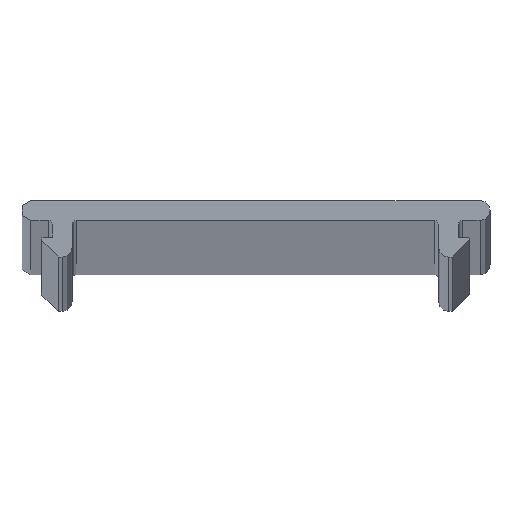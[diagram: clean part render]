
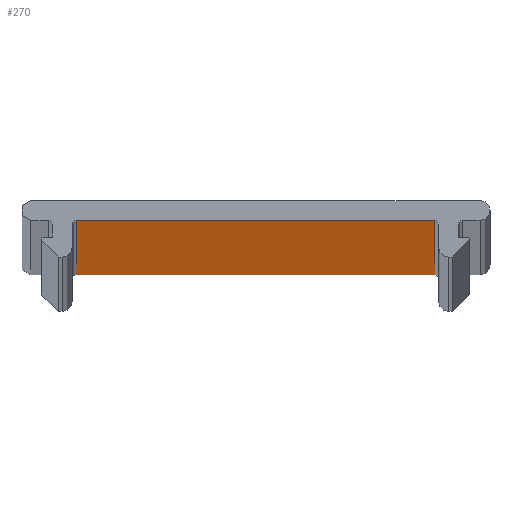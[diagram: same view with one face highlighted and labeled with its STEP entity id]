
A CAD part, top view. The second image highlights one B-rep face of the part: STEP entity #270.
In plain terms, the highlighted planar face has unit normal (0, -1, 0).
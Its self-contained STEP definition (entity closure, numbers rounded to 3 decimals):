
#38 = ORIENTED_EDGE ( 'NONE', *, *, #884, .T. ) ;
#59 = VECTOR ( 'NONE', #769, 1000. ) ;
#121 = DIRECTION ( 'NONE',  ( 0., -1., 0. ) ) ;
#135 = LINE ( 'NONE', #437, #764 ) ;
#153 = CARTESIAN_POINT ( 'NONE',  ( -9.05, 14.5, 787.4 ) ) ;
#166 = VERTEX_POINT ( 'NONE', #955 ) ;
#185 = VECTOR ( 'NONE', #429, 1000. ) ;
#225 = DIRECTION ( 'NONE',  ( 1., 0., 0. ) ) ;
#270 = ADVANCED_FACE ( 'NONE', ( #574 ), #796, .T. ) ;
#273 = VERTEX_POINT ( 'NONE', #562 ) ;
#326 = VECTOR ( 'NONE', #225, 1000. ) ;
#340 = AXIS2_PLACEMENT_3D ( 'NONE', #500, #121, #878 ) ;
#347 = EDGE_CURVE ( 'NONE', #166, #273, #758, .T. ) ;
#365 = VERTEX_POINT ( 'NONE', #973 ) ;
#429 = DIRECTION ( 'NONE',  ( 0., 0., 1. ) ) ;
#437 = CARTESIAN_POINT ( 'NONE',  ( 9.05, 14.5, -787.4 ) ) ;
#439 = CARTESIAN_POINT ( 'NONE',  ( -9.05, 14.5, -177.3 ) ) ;
#500 = CARTESIAN_POINT ( 'NONE',  ( -9.05, 14.5, -177.3 ) ) ;
#515 = DIRECTION ( 'NONE',  ( -1., 0., 0. ) ) ;
#525 = ORIENTED_EDGE ( 'NONE', *, *, #923, .F. ) ;
#529 = CARTESIAN_POINT ( 'NONE',  ( 9.05, 14.5, -177.3 ) ) ;
#562 = CARTESIAN_POINT ( 'NONE',  ( -9.05, 14.5, 787.4 ) ) ;
#567 = ORIENTED_EDGE ( 'NONE', *, *, #750, .F. ) ;
#574 = FACE_OUTER_BOUND ( 'NONE', #740, .T. ) ;
#691 = CARTESIAN_POINT ( 'NONE',  ( 9.05, 14.5, 787.4 ) ) ;
#740 = EDGE_LOOP ( 'NONE', ( #38, #525, #867, #567 ) ) ;
#750 = EDGE_CURVE ( 'NONE', #365, #166, #135, .T. ) ;
#758 = LINE ( 'NONE', #439, #185 ) ;
#764 = VECTOR ( 'NONE', #515, 1000. ) ;
#769 = DIRECTION ( 'NONE',  ( 0., 0., 1. ) ) ;
#796 = PLANE ( 'NONE',  #340 ) ;
#838 = LINE ( 'NONE', #153, #326 ) ;
#867 = ORIENTED_EDGE ( 'NONE', *, *, #347, .F. ) ;
#878 = DIRECTION ( 'NONE',  ( 0., 0., -1. ) ) ;
#884 = EDGE_CURVE ( 'NONE', #365, #945, #974, .T. ) ;
#923 = EDGE_CURVE ( 'NONE', #273, #945, #838, .T. ) ;
#945 = VERTEX_POINT ( 'NONE', #691 ) ;
#955 = CARTESIAN_POINT ( 'NONE',  ( -9.05, 14.5, -787.4 ) ) ;
#973 = CARTESIAN_POINT ( 'NONE',  ( 9.05, 14.5, -787.4 ) ) ;
#974 = LINE ( 'NONE', #529, #59 ) ;
